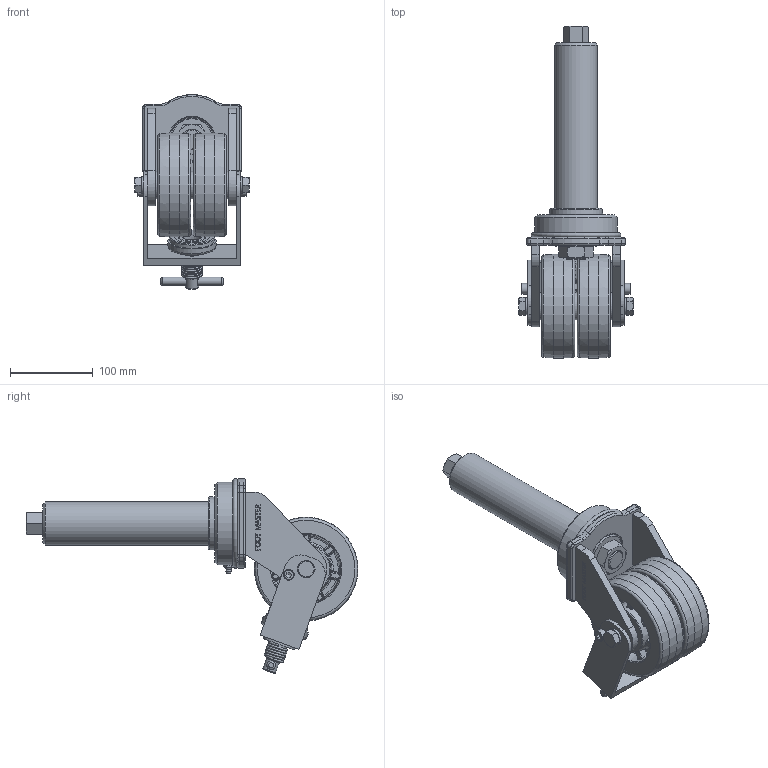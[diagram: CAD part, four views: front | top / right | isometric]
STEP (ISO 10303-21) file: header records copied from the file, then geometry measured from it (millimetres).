
FILE_DESCRIPTION(/* description */ (''),/* implementation_level */ '2;1');
FILE_NAME(/* name */ 'C:\Users\admin\Desktop\업무폴더\일자별 업무\2024\03월\03.08\홈페이지용 3D\3D\GXTT-125-BSS-HUD-PM52x200L_2.stp',/* time_stamp */ '2024-03-13T08:32:21+09:00',/* author */ ('admin'),/* organization */ (''),/* preprocessor_version */ 'ST-DEVELOPER v18.1',/* originating_system */ 'Autodesk Inventor 2021',/* authorisation */ '');
FILE_SCHEMA (('CONFIG_CONTROL_DESIGN'));
Length unit declared in the file: millimetre
Products named in the file (1): GXTT-125-BSS-HUD-PM52x200L
Bounding box: 138 x 400.5 x 235.31 mm (x, y, z)
Volume: 1903686.2 mm3; surface area: 271743 mm2
Topology: 4 solids, 4 shells, 1304 faces, 3093 edges, 1871 vertices
Faces by surface type: plane 461, bspline 426, cylinder 182, torus 161, cone 74
Full cylindrical faces by diameter (mm): 1 x1, 6.647 x2, 8 x2, 9 x2, 9.8 x1, 10 x1, 10.2 x1, 11.8 x1, 12 x1, 12.2 x1, 13 x2, 16 x1, 20 x1, 20.6 x2, 21 x1, 24 x1, 32 x1, 33 x3, 36 x1, 40 x1, 42 x1, 50 x1, 52 x1, 54 x1, 58 x1, 60 x1, 64 x1, 85 x1, 100 x1, 125 x2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
Entity records: 50162 total; most frequent: CARTESIAN_POINT 21884, ORIENTED_EDGE 6208, DIRECTION 5401, EDGE_CURVE 3104, AXIS2_PLACEMENT_3D 2153, VERTEX_POINT 1878, EDGE_LOOP 1393, FACE_OUTER_BOUND 1304
